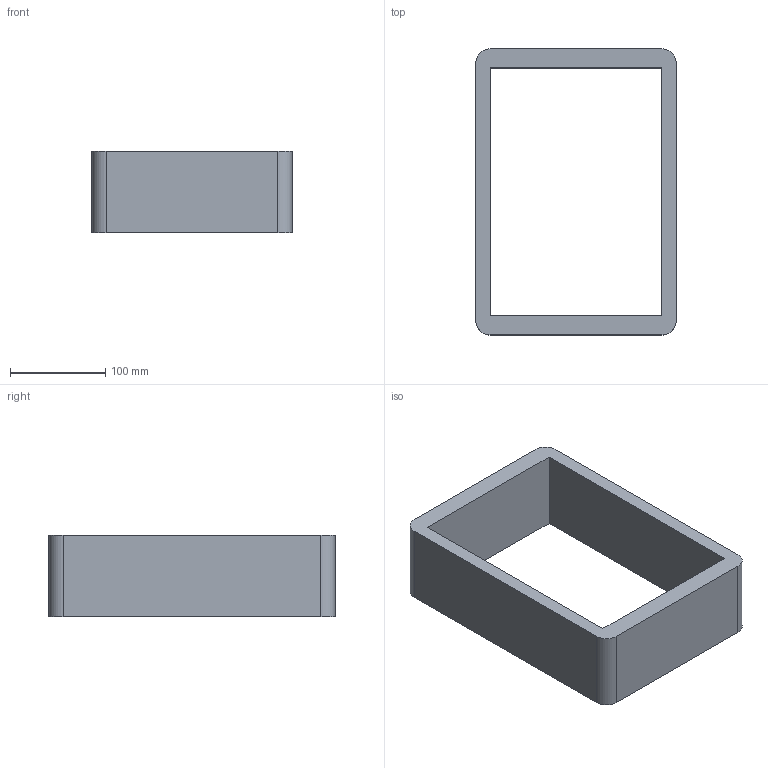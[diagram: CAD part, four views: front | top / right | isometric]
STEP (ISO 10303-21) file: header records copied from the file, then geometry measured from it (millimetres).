
FILE_DESCRIPTION(('Open CASCADE Model'),'2;1');
FILE_NAME('Open CASCADE Shape Model','2026-09-19T16:36:14',('Author'),( 'Open CASCADE'),'Open CASCADE STEP processor 7.8','Open CASCADE 7.8' ,'Unknown');
FILE_SCHEMA(('AUTOMOTIVE_DESIGN { 1 0 10303 214 1 1 1 1 }'));
Length unit declared in the file: millimetre
Products named in the file (1): Open CASCADE STEP translator 7.8 11
Bounding box: 210 x 300 x 85 mm (x, y, z)
Volume: 1360583 mm3; surface area: 191324.8 mm2
Topology: 1 solids, 1 shells, 14 faces, 36 edges, 24 vertices
Faces by surface type: plane 10, cylinder 4
Entity records: 906 total; most frequent: CARTESIAN_POINT 187, DIRECTION 126, LINE 76, VECTOR 76, ORIENTED_EDGE 72, PCURVE 72, DEFINITIONAL_REPRESENTATION 72, EDGE_CURVE 36
